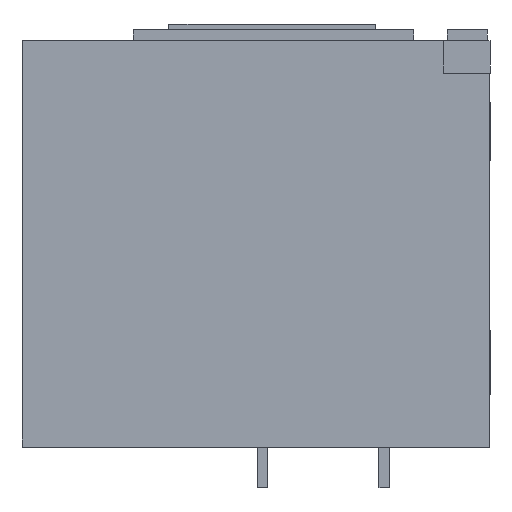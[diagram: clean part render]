
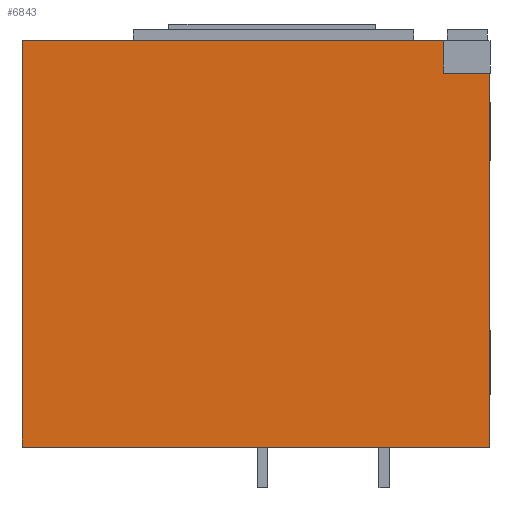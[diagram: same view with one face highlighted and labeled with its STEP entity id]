
A CAD part, left-side view. The second image highlights one B-rep face of the part: STEP entity #6843.
In plain terms, the highlighted planar face has unit normal (-1, 0, 0).
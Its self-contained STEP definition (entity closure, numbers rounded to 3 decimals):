
#103 = CARTESIAN_POINT ( 'NONE',  ( -262.5, 0., -373.5 ) ) ;
#458 = CARTESIAN_POINT ( 'NONE',  ( -262.5, 42.5, -30. ) ) ;
#864 = ORIENTED_EDGE ( 'NONE', *, *, #3641, .T. ) ;
#2272 = LINE ( 'NONE', #21338, #16624 ) ;
#2628 = EDGE_LOOP ( 'NONE', ( #24397, #32838, #864, #18566, #13052, #35355 ) ) ;
#3012 = DIRECTION ( 'NONE',  ( -1., 0., 0. ) ) ;
#3413 = LINE ( 'NONE', #35777, #32725 ) ;
#3641 = EDGE_CURVE ( 'NONE', #26153, #25298, #2272, .T. ) ;
#4506 = DIRECTION ( 'NONE',  ( 0., -1., 0. ) ) ;
#4635 = DIRECTION ( 'NONE',  ( 0., 0., 1. ) ) ;
#5168 = EDGE_CURVE ( 'NONE', #31077, #9772, #8474, .T. ) ;
#5197 = LINE ( 'NONE', #29423, #19607 ) ;
#6582 = CARTESIAN_POINT ( 'NONE',  ( -262.5, 430.001, -30. ) ) ;
#6843 = ADVANCED_FACE ( 'NONE', ( #14240 ), #17318, .T. ) ;
#8096 = VERTEX_POINT ( 'NONE', #458 ) ;
#8118 = VECTOR ( 'NONE', #23674, 1000. ) ;
#8474 = LINE ( 'NONE', #33532, #21935 ) ;
#9772 = VERTEX_POINT ( 'NONE', #10593 ) ;
#10121 = LINE ( 'NONE', #10212, #18733 ) ;
#10212 = CARTESIAN_POINT ( 'NONE',  ( -262.5, 430., -373.5 ) ) ;
#10311 = EDGE_CURVE ( 'NONE', #8096, #9772, #5197, .T. ) ;
#10408 = EDGE_CURVE ( 'NONE', #25298, #22014, #3413, .T. ) ;
#10593 = CARTESIAN_POINT ( 'NONE',  ( -262.5, 42.5, 0. ) ) ;
#13052 = ORIENTED_EDGE ( 'NONE', *, *, #33046, .F. ) ;
#14240 = FACE_OUTER_BOUND ( 'NONE', #2628, .T. ) ;
#16624 = VECTOR ( 'NONE', #4506, 1000. ) ;
#17318 = PLANE ( 'NONE',  #17736 ) ;
#17736 = AXIS2_PLACEMENT_3D ( 'NONE', #103, #3012, #23011 ) ;
#18358 = CARTESIAN_POINT ( 'NONE',  ( -262.5, 0., -30. ) ) ;
#18566 = ORIENTED_EDGE ( 'NONE', *, *, #10408, .T. ) ;
#18733 = VECTOR ( 'NONE', #19076, 1000. ) ;
#19076 = DIRECTION ( 'NONE',  ( 0., 0., 1. ) ) ;
#19607 = VECTOR ( 'NONE', #32242, 1000. ) ;
#21338 = CARTESIAN_POINT ( 'NONE',  ( -262.5, 0., -373.5 ) ) ;
#21935 = VECTOR ( 'NONE', #27914, 1000. ) ;
#22014 = VERTEX_POINT ( 'NONE', #18358 ) ;
#22462 = LINE ( 'NONE', #6582, #8118 ) ;
#23011 = DIRECTION ( 'NONE',  ( 0., -1., 0. ) ) ;
#23102 = CARTESIAN_POINT ( 'NONE',  ( -262.5, 0., -373.5 ) ) ;
#23674 = DIRECTION ( 'NONE',  ( 0., -1., 0. ) ) ;
#24397 = ORIENTED_EDGE ( 'NONE', *, *, #5168, .F. ) ;
#25059 = CARTESIAN_POINT ( 'NONE',  ( -262.5, 430., -373.5 ) ) ;
#25298 = VERTEX_POINT ( 'NONE', #23102 ) ;
#26153 = VERTEX_POINT ( 'NONE', #25059 ) ;
#27914 = DIRECTION ( 'NONE',  ( 0., -1., 0. ) ) ;
#28034 = EDGE_CURVE ( 'NONE', #26153, #31077, #10121, .T. ) ;
#28627 = CARTESIAN_POINT ( 'NONE',  ( -262.5, 430., 0. ) ) ;
#29423 = CARTESIAN_POINT ( 'NONE',  ( -262.5, 42.5, -373.5 ) ) ;
#31077 = VERTEX_POINT ( 'NONE', #28627 ) ;
#32242 = DIRECTION ( 'NONE',  ( 0., 0., 1. ) ) ;
#32725 = VECTOR ( 'NONE', #4635, 1000. ) ;
#32838 = ORIENTED_EDGE ( 'NONE', *, *, #28034, .F. ) ;
#33046 = EDGE_CURVE ( 'NONE', #8096, #22014, #22462, .T. ) ;
#33532 = CARTESIAN_POINT ( 'NONE',  ( -262.5, 0., 0. ) ) ;
#35355 = ORIENTED_EDGE ( 'NONE', *, *, #10311, .T. ) ;
#35777 = CARTESIAN_POINT ( 'NONE',  ( -262.5, 0., -373.5 ) ) ;
